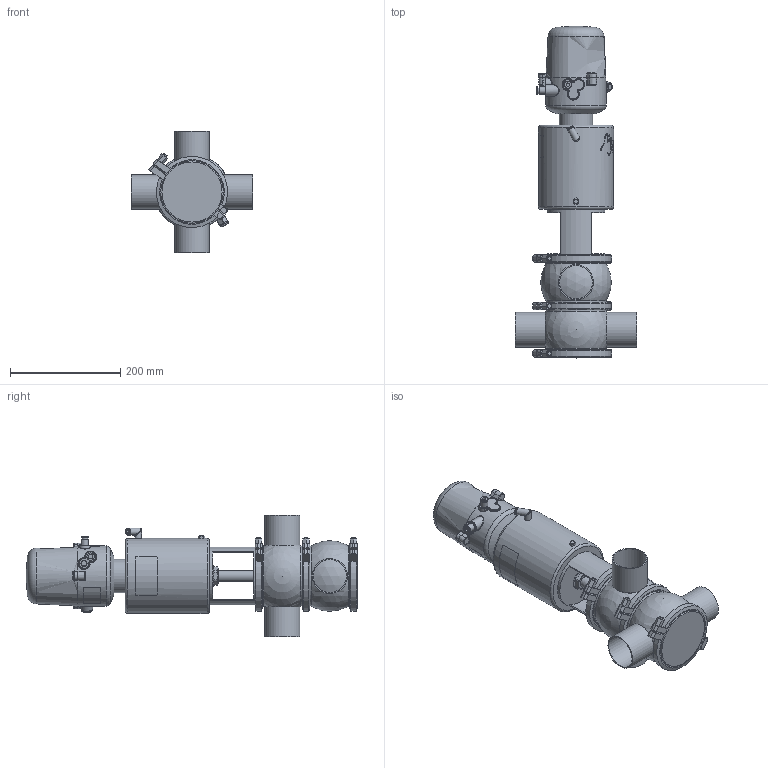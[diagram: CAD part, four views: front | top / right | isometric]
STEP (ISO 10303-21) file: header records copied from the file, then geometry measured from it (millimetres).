
FILE_DESCRIPTION (( 'STEP AP214' ), '1' );
FILE_NAME ('INNOVA M C W OD 2½ T3 AS NC & C-TOP S_10.241.16.0043.STEP', '2024-08-07T06:32:09', ( '' ), ( '' ), 'SwSTEP 2.0', 'SolidWorks 2023', '' );
FILE_SCHEMA (( 'AUTOMOTIVE_DESIGN' ));
Length unit declared in the file: millimetre
Products named in the file (8): 10.240.15.0007_OD 2½"; 10.240.15.0001_DN 065; 10.240.15.0017_Estàndard; 10.240.15.0010_DN 065; 10.426.15.0001_C-TOP S - 1 EV; 10.240.15.0014_T3 AS P180; INNOVA M C W OD 2½ T3 AS NC & C-TOP S_10.241.16.0043; 10.241.15.0001_DIN 065
Assembly tree (10 placements, depth 2):
  INNOVA M C W OD 2½ T3 AS NC & C-TOP S_10.241.16.0043
    10.240.15.0007_OD 2½"  x2
    10.240.15.0010_DN 065
    10.240.15.0014_T3 AS P180
    10.240.15.0017_Estàndard
    10.426.15.0001_C-TOP S - 1 EV
    10.240.15.0001_DN 065  x3
    10.241.15.0001_DIN 065
Bounding box: 220 x 601.5 x 220 mm (x, y, z)
Volume: 6069500.9 mm3; surface area: 545606.1 mm2
Topology: 11 solids, 11 shells, 1242 faces, 3012 edges, 2002 vertices
Faces by surface type: plane 444, cylinder 381, cone 211, bspline 160, torus 36, sphere 10
Full cylindrical faces by diameter (mm): 0.371 x17, 0.512 x16, 0.658 x16, 0.795 x16, 0.94 x15, 1.098 x15, 1.241 x13, 1.382 x13, 1.523 x11, 1.669 x10, 2.201 x1, 4 x2, 5.5 x2, 6 x2, 6.15 x1, 8 x8, 8.5 x1, 10 x1, 10.5 x1, 11 x2, 12.5 x3, 13 x2, 13.5 x2, 16 x1, 17 x3, 20 x3, 20.5 x1, 22 x2, 31 x1, 34.5 x3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
Entity records: 57830 total; most frequent: CARTESIAN_POINT 27736, ORIENTED_EDGE 4492, DIRECTION 3623, EDGE_CURVE 2246, VERTEX_POINT 1597, EDGE_LOOP 1555, AXIS2_PLACEMENT_3D 1483, FACE_OUTER_BOUND 1319
